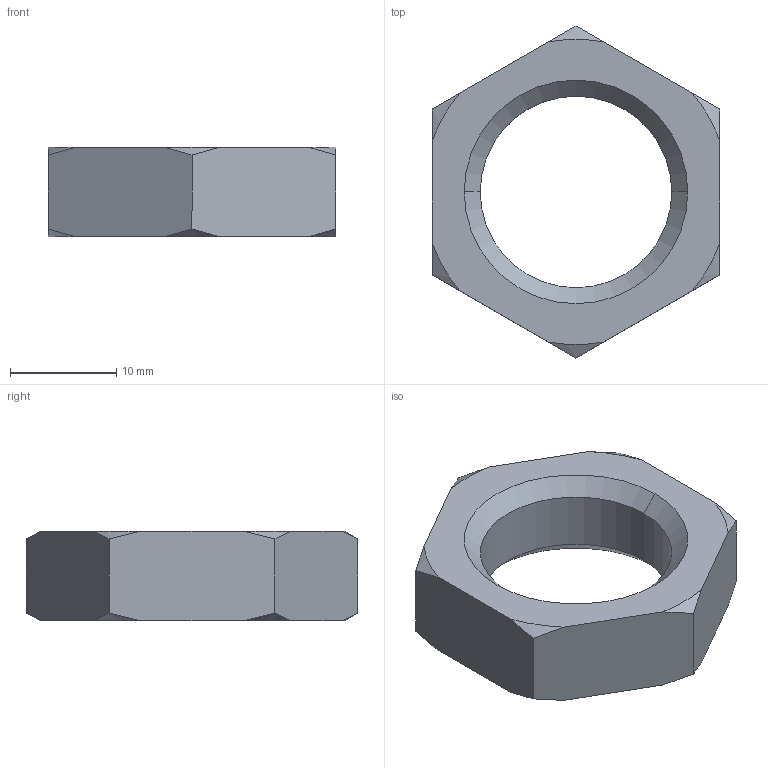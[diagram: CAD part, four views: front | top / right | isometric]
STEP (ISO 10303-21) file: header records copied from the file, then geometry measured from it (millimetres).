
FILE_DESCRIPTION (( 'STEP AP203' ), '1' );
FILE_NAME ('P0306.180-150-A4.step', '2018-12-15T15:01:13', ( '' ), ( '' ), 'SwSTEP 2.0', 'SolidWorks 2017', '' );
FILE_SCHEMA (( 'CONFIG_CONTROL_DESIGN' ));
Length unit declared in the file: millimetre
Products named in the file (1): P0306.180-150-A4
Bounding box: 27 x 31.18 x 8.42 mm (x, y, z)
Volume: 3030.5 mm3; surface area: 1905.5 mm2
Topology: 1 solids, 1 shells, 26 faces, 68 edges, 44 vertices
Faces by surface type: cone 16, plane 8, cylinder 2
Entity records: 905 total; most frequent: CARTESIAN_POINT 211, ORIENTED_EDGE 136, DIRECTION 118, EDGE_CURVE 68, AXIS2_PLACEMENT_3D 47, VERTEX_POINT 44, EDGE_LOOP 28, FACE_OUTER_BOUND 26
